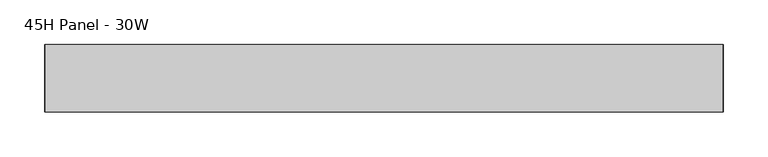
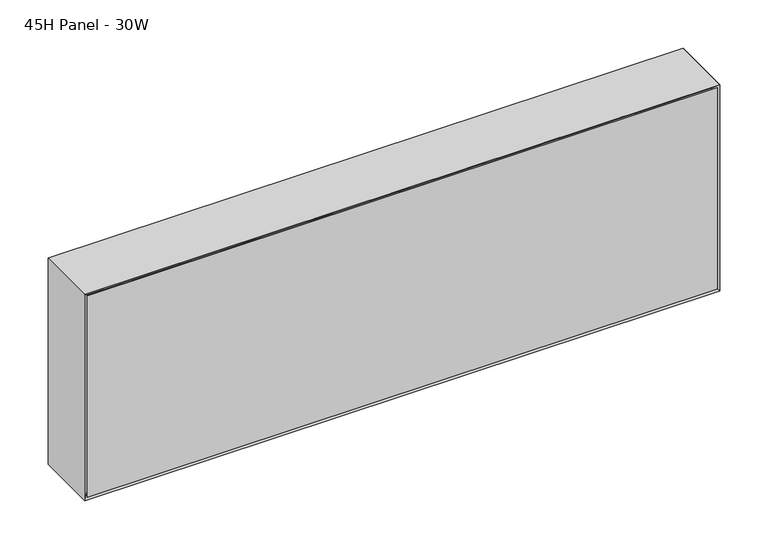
"""IFC4 building model written with IfcOpenShell, lengths in millimetres: furniture geometry, Steelcase - Montage - Frame - 10H - Enhanced Standard - Single Stack-On : 45H Panel - 30W."""

from ifc_helpers import new_model, si_unit, frame, origin, place, context, project, spatial, polyline, outline, extrude, faceted_brep, source, transform, mapped, element, save


def furniture_45h_panel_30w_a73b5204(model_context):
    return source(origin(), model_context, "Body", "SolidModel", [
        faceted_brep([(752.4750027, 31.7500194, 1389.0752415), (9.5250028, 31.7500194, 1389.0752415), (9.5250028, 31.7500194, 1146.175), (752.4750027, 31.7500194, 1146.175), (758.825, 38.1000194, 1395.4252415), (758.825, 38.1000194, 1139.825), (3.175, 38.1000194, 1139.825), (3.175, 38.1000194, 1395.4252415)], [[[0, 1, 2, 3]], [[4, 5, 6, 7]], [[4, 0, 3, 5]], [[5, 3, 2, 6]], [[6, 2, 1, 7]], [[7, 1, 0, 4]]]),
        faceted_brep([(752.4750027, -31.7500194, 1389.0752415), (752.4750027, -31.7500194, 1146.175), (9.5250028, -31.7500194, 1146.175), (9.5250028, -31.7500194, 1389.0752415), (758.825, -38.1000194, 1395.4252415), (3.175, -38.1000194, 1395.4252415), (3.175, -38.1000194, 1139.825), (758.825, -38.1000194, 1139.825)], [[[0, 1, 2, 3]], [[4, 5, 6, 7]], [[4, 7, 1, 0]], [[7, 6, 2, 1]], [[6, 5, 3, 2]], [[5, 4, 0, 3]]]),
        faceted_brep([(762.0, -38.1000015, 1136.65), (762.0, 38.1000015, 1136.65), (762.0, 38.1000015, 1398.6002415), (762.0, -38.1000106, 1398.6002414), (0.0, 38.1000015, 1136.65), (0.0, -38.1000015, 1136.65), (0.0, -38.1000015, 1398.6002415), (0.0, 38.1000015, 1398.6002415), (6.3500484, 31.749953, 1143.0000484), (755.6499879, 31.749953, 1143.0000484), (6.35, -31.749953, 1143.0000484), (755.6499879, -31.749953, 1143.0000484), (6.3500169, 31.7499846, 1392.2502245), (6.3500012, -31.7500003, 1392.250193), (755.6499879, -31.7499973, 1392.250193), (755.6499879, 31.7499885, 1392.2502293)], [[[0, 1, 2, 3]], [[4, 5, 6, 7]], [[1, 0, 5, 4]], [[1, 4, 8, 9]], [[9, 8, 10, 11]], [[5, 0, 11, 10]], [[4, 7, 12, 8]], [[6, 5, 10, 13]], [[10, 8, 12, 13]], [[9, 11, 14, 15]], [[0, 3, 14, 11]], [[2, 1, 9, 15]], [[3, 2, 15, 14]], [[7, 6, 13, 12]]]),
        faceted_brep([(762.0, -38.1000015, 1398.6002415), (0.0, -38.1000015, 1398.6002415), (6.3500484, -31.749953, 1392.250193), (755.6499516, -31.749953, 1392.250193), (6.3500484, 31.749953, 1392.250193), (755.6499516, 31.749953, 1392.250193), (0.0, 38.1000015, 1398.6002415), (762.0, 38.1000015, 1398.6002415)], [[[0, 1, 2, 3]], [[3, 2, 4, 5]], [[6, 7, 5, 4]], [[1, 0, 7, 6]], [[2, 1, 6, 4]], [[0, 3, 5, 7]]]),
        extrude(outline(polyline([(755.6499879, 31.7500016), (755.6499879, -31.7499985), (6.35, -31.7499985), (6.35, 31.7500016), (755.6499879, 31.7500016)])), frame((0.0, 0.0, 1142.9952145), z_axis=(0.0, 0.0, 1.0), x_axis=(1.0, 0.0, 0.0)), (0.0, 0.0, 1.0), 249.2549785),
    ])


if __name__ == "__main__":
    model = new_model("IFC4")
    model_context = context("Model", 3, world=origin())
    ifc_project = project(units=[si_unit("LENGTHUNIT", "METRE", prefix="MILLI")], contexts=[model_context])
    site = spatial("IfcSite", under=ifc_project)
    building = spatial("IfcBuilding", under=site)
    placement = place(None, origin())
    furniture_45h_panel_30w_shape = furniture_45h_panel_30w_a73b5204(model_context)
    element("IfcFurniture", 1, ObjectType="Steelcase - Montage - Frame - 10H - Enhanced Standard - Single Stack-On : 45H Panel - 30W", at=placement, inside=building, context=model_context, shape_type="MappedRepresentation", body=[
        mapped(furniture_45h_panel_30w_shape, transform((0.0, 0.0, 0.0), x_axis=(1.0, 0.0, 0.0), y_axis=(0.0, 1.0, 0.0), z_axis=(0.0, 0.0, 1.0))),
    ])
    save(model, "model.ifc")
